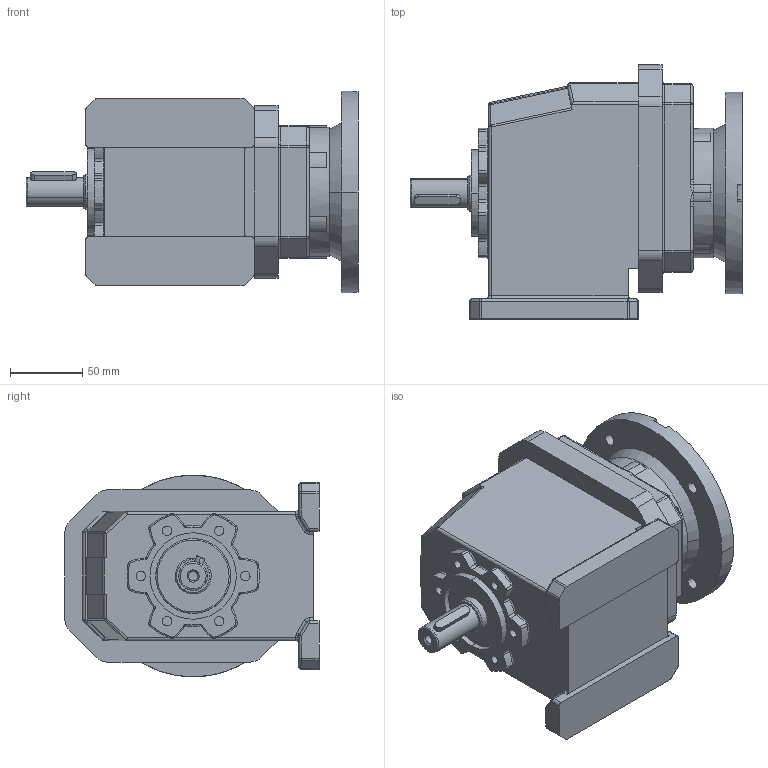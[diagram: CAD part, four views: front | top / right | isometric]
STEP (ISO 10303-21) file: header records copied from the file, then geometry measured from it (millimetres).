
FILE_DESCRIPTION (( 'STEP AP203' ), '1' );
FILE_NAME ('Red HG20 B14 19.STEP', '2019-07-16T07:05:14', ( '' ), ( '' ), 'SwSTEP 2.0', 'SolidWorks 2018', '' );
FILE_SCHEMA (( 'CONFIG_CONTROL_DESIGN' ));
Length unit declared in the file: millimetre
Products named in the file (4): HG20; Red HG20 B14 19; Bride B14; Arbre 20 19
Assembly tree (3 placements, depth 2):
  Red HG20 B14 19
    HG20
    Bride B14
    Arbre 20 19
Bounding box: 230.5 x 176.4 x 140 mm (x, y, z)
Volume: 2322252.4 mm3; surface area: 230376.3 mm2
Topology: 3 solids, 3 shells, 470 faces, 1139 edges, 675 vertices
Faces by surface type: cylinder 229, plane 106, torus 82, sphere 31, bspline 14, cone 8
Entity records: 14579 total; most frequent: CARTESIAN_POINT 2932, DIRECTION 2615, ORIENTED_EDGE 2242, EDGE_CURVE 1121, AXIS2_PLACEMENT_3D 1082, VERTEX_POINT 675, CIRCLE 620, EDGE_LOOP 512
